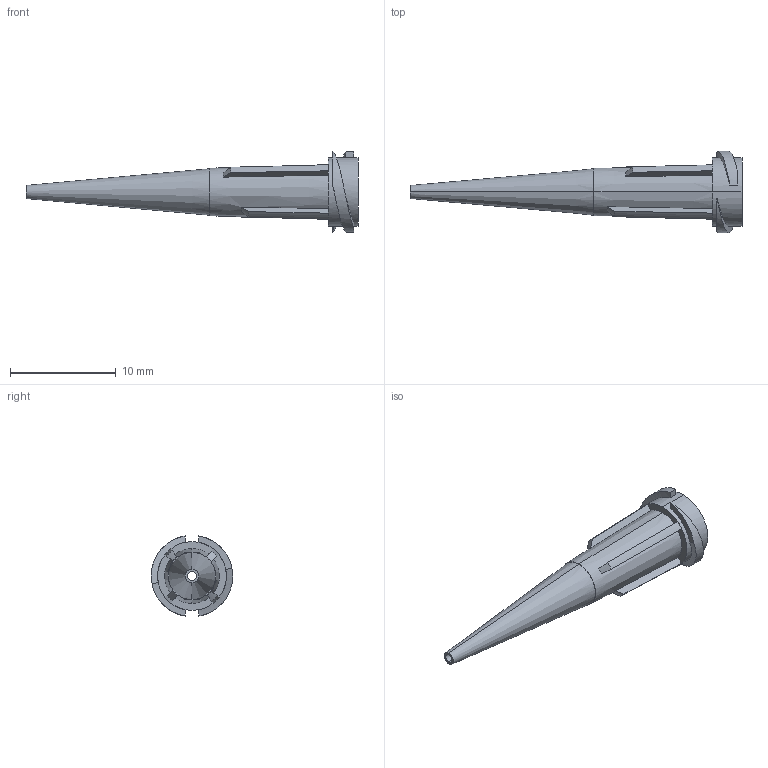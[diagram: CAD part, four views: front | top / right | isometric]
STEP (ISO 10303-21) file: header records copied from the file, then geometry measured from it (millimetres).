
FILE_DESCRIPTION (( 'STEP AP214' ), '1' );
FILE_NAME ('8001282_CUS.STEP', '2022-05-31T13:32:38', ( '' ), ( '' ), 'SwSTEP 2.0', 'SolidWorks 2020', '' );
FILE_SCHEMA (( 'AUTOMOTIVE_DESIGN' ));
Length unit declared in the file: millimetre
Products named in the file (1): 8001282_CUS
Bounding box: 31.4 x 7.69 x 7.59 mm (x, y, z)
Volume: 228.9 mm3; surface area: 789.1 mm2
Topology: 3 solids, 3 shells, 55 faces, 126 edges, 82 vertices
Faces by surface type: plane 25, cone 20, bspline 6, cylinder 4
Entity records: 1824 total; most frequent: CARTESIAN_POINT 554, DIRECTION 254, ORIENTED_EDGE 252, EDGE_CURVE 126, AXIS2_PLACEMENT_3D 100, VERTEX_POINT 82, EDGE_LOOP 62, ADVANCED_FACE 55
